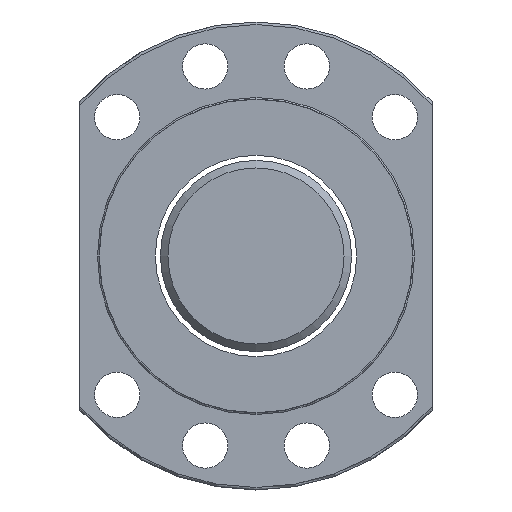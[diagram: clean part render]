
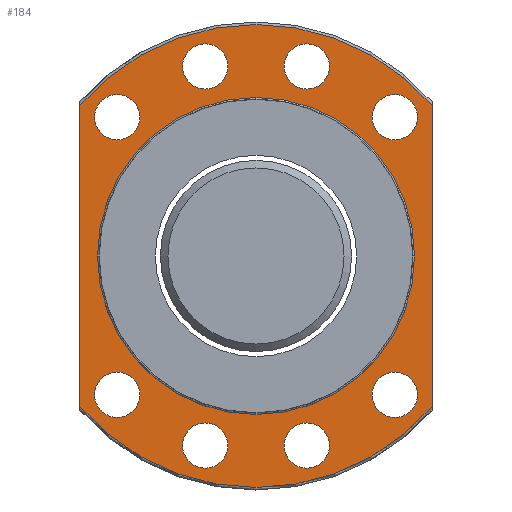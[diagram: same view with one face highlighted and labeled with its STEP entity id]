
A CAD part, left-side view. The second image highlights one B-rep face of the part: STEP entity #184.
In plain terms, the highlighted planar face has unit normal (-1, 0, 0).
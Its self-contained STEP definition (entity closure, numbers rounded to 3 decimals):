
#99=LINE('',#1278,#107);
#100=LINE('',#1279,#108);
#107=VECTOR('',#961,1.);
#108=VECTOR('',#962,1.);
#184=ADVANCED_FACE('',(#239,#279,#280,#281,#282,#283,#284,#285,#286,#287),
#219,.T.);
#219=PLANE('',#820);
#239=FACE_OUTER_BOUND('',#369,.T.);
#279=FACE_BOUND('',#370,.T.);
#280=FACE_BOUND('',#371,.T.);
#281=FACE_BOUND('',#372,.T.);
#282=FACE_BOUND('',#373,.T.);
#283=FACE_BOUND('',#374,.T.);
#284=FACE_BOUND('',#375,.T.);
#285=FACE_BOUND('',#376,.T.);
#286=FACE_BOUND('',#377,.T.);
#287=FACE_BOUND('',#378,.T.);
#369=EDGE_LOOP('',(#485,#486,#487,#488));
#370=EDGE_LOOP('',(#489));
#371=EDGE_LOOP('',(#490));
#372=EDGE_LOOP('',(#491));
#373=EDGE_LOOP('',(#492));
#374=EDGE_LOOP('',(#493));
#375=EDGE_LOOP('',(#494));
#376=EDGE_LOOP('',(#495));
#377=EDGE_LOOP('',(#496));
#378=EDGE_LOOP('',(#497));
#485=ORIENTED_EDGE('',*,*,#672,.F.);
#486=ORIENTED_EDGE('',*,*,#661,.F.);
#487=ORIENTED_EDGE('',*,*,#673,.T.);
#488=ORIENTED_EDGE('',*,*,#669,.F.);
#489=ORIENTED_EDGE('',*,*,#674,.T.);
#490=ORIENTED_EDGE('',*,*,#675,.F.);
#491=ORIENTED_EDGE('',*,*,#676,.F.);
#492=ORIENTED_EDGE('',*,*,#677,.F.);
#493=ORIENTED_EDGE('',*,*,#678,.F.);
#494=ORIENTED_EDGE('',*,*,#679,.F.);
#495=ORIENTED_EDGE('',*,*,#680,.F.);
#496=ORIENTED_EDGE('',*,*,#681,.F.);
#497=ORIENTED_EDGE('',*,*,#682,.F.);
#596=VERTEX_POINT('',#1160);
#598=VERTEX_POINT('',#1182);
#603=VERTEX_POINT('',#1252);
#605=VERTEX_POINT('',#1255);
#607=VERTEX_POINT('',#1281);
#608=VERTEX_POINT('',#1283);
#609=VERTEX_POINT('',#1285);
#610=VERTEX_POINT('',#1287);
#611=VERTEX_POINT('',#1289);
#612=VERTEX_POINT('',#1291);
#613=VERTEX_POINT('',#1293);
#614=VERTEX_POINT('',#1295);
#615=VERTEX_POINT('',#1297);
#661=EDGE_CURVE('',#598,#596,#730,.T.);
#669=EDGE_CURVE('',#603,#605,#733,.T.);
#672=EDGE_CURVE('',#596,#603,#99,.T.);
#673=EDGE_CURVE('',#598,#605,#100,.T.);
#674=EDGE_CURVE('',#607,#607,#735,.T.);
#675=EDGE_CURVE('',#608,#608,#736,.T.);
#676=EDGE_CURVE('',#609,#609,#737,.T.);
#677=EDGE_CURVE('',#610,#610,#738,.T.);
#678=EDGE_CURVE('',#611,#611,#739,.T.);
#679=EDGE_CURVE('',#612,#612,#740,.T.);
#680=EDGE_CURVE('',#613,#613,#741,.T.);
#681=EDGE_CURVE('',#614,#614,#742,.T.);
#682=EDGE_CURVE('',#615,#615,#743,.T.);
#730=CIRCLE('',#802,46.);
#733=CIRCLE('',#808,46.);
#735=CIRCLE('',#811,31.5);
#736=CIRCLE('',#812,4.5);
#737=CIRCLE('',#813,4.5);
#738=CIRCLE('',#814,4.5);
#739=CIRCLE('',#815,4.5);
#740=CIRCLE('',#816,4.5);
#741=CIRCLE('',#817,4.5);
#742=CIRCLE('',#818,4.5);
#743=CIRCLE('',#819,4.5);
#802=AXIS2_PLACEMENT_3D('',#1183,#941,#942);
#808=AXIS2_PLACEMENT_3D('',#1254,#955,#956);
#811=AXIS2_PLACEMENT_3D('',#1280,#963,#964);
#812=AXIS2_PLACEMENT_3D('',#1282,#965,#966);
#813=AXIS2_PLACEMENT_3D('',#1284,#967,#968);
#814=AXIS2_PLACEMENT_3D('',#1286,#969,#970);
#815=AXIS2_PLACEMENT_3D('',#1288,#971,#972);
#816=AXIS2_PLACEMENT_3D('',#1290,#973,#974);
#817=AXIS2_PLACEMENT_3D('',#1292,#975,#976);
#818=AXIS2_PLACEMENT_3D('',#1294,#977,#978);
#819=AXIS2_PLACEMENT_3D('',#1296,#979,#980);
#820=AXIS2_PLACEMENT_3D('',#1298,#981,#982);
#941=DIRECTION('',(1.,0.,0.));
#942=DIRECTION('',(0.,1.,0.));
#955=DIRECTION('',(1.,0.,0.));
#956=DIRECTION('',(0.,1.,0.));
#961=DIRECTION('',(0.,0.,1.));
#962=DIRECTION('',(0.,0.,1.));
#963=DIRECTION('',(1.,0.,0.));
#964=DIRECTION('',(0.,1.,0.));
#965=DIRECTION('',(-1.,0.,0.));
#966=DIRECTION('',(0.,-1.,0.));
#967=DIRECTION('',(-1.,0.,0.));
#968=DIRECTION('',(0.,-1.,0.));
#969=DIRECTION('',(-1.,0.,0.));
#970=DIRECTION('',(0.,-1.,0.));
#971=DIRECTION('',(-1.,0.,0.));
#972=DIRECTION('',(0.,-1.,0.));
#973=DIRECTION('',(-1.,0.,0.));
#974=DIRECTION('',(0.,-1.,0.));
#975=DIRECTION('',(-1.,0.,0.));
#976=DIRECTION('',(0.,-1.,0.));
#977=DIRECTION('',(-1.,0.,0.));
#978=DIRECTION('',(0.,-1.,0.));
#979=DIRECTION('',(-1.,0.,0.));
#980=DIRECTION('',(0.,-1.,0.));
#981=DIRECTION('',(-1.,0.,0.));
#982=DIRECTION('',(0.,-1.,0.));
#1160=CARTESIAN_POINT('',(-29.,35.,-29.85));
#1182=CARTESIAN_POINT('',(-29.,-35.,-29.85));
#1183=CARTESIAN_POINT('',(-29.,0.,0.));
#1252=CARTESIAN_POINT('',(-29.,35.,29.85));
#1254=CARTESIAN_POINT('',(-29.,0.,0.));
#1255=CARTESIAN_POINT('',(-29.,-35.,29.85));
#1278=CARTESIAN_POINT('',(-29.,35.,0.));
#1279=CARTESIAN_POINT('',(-29.,-35.,0.));
#1280=CARTESIAN_POINT('',(-29.,0.,0.));
#1281=CARTESIAN_POINT('',(-29.,31.5,0.));
#1282=CARTESIAN_POINT('',(-29.,10.094,37.671));
#1283=CARTESIAN_POINT('',(-29.,5.594,37.671));
#1284=CARTESIAN_POINT('',(-29.,-10.094,37.671));
#1285=CARTESIAN_POINT('',(-29.,-14.594,37.671));
#1286=CARTESIAN_POINT('',(-29.,-10.094,-37.671));
#1287=CARTESIAN_POINT('',(-29.,-14.594,-37.671));
#1288=CARTESIAN_POINT('',(-29.,10.094,-37.671));
#1289=CARTESIAN_POINT('',(-29.,5.594,-37.671));
#1290=CARTESIAN_POINT('',(-29.,-27.577,27.577));
#1291=CARTESIAN_POINT('',(-29.,-32.077,27.577));
#1292=CARTESIAN_POINT('',(-29.,27.577,27.577));
#1293=CARTESIAN_POINT('',(-29.,23.077,27.577));
#1294=CARTESIAN_POINT('',(-29.,-27.577,-27.577));
#1295=CARTESIAN_POINT('',(-29.,-32.077,-27.577));
#1296=CARTESIAN_POINT('',(-29.,27.577,-27.577));
#1297=CARTESIAN_POINT('',(-29.,23.077,-27.577));
#1298=CARTESIAN_POINT('',(-29.,38.75,0.));
